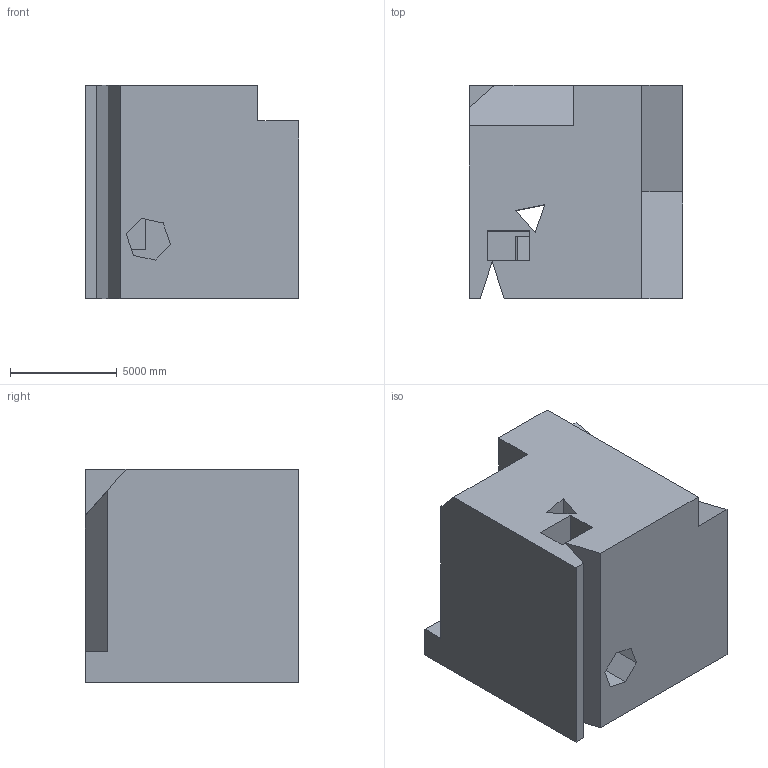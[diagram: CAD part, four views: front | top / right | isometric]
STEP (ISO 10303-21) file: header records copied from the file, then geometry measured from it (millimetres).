
FILE_DESCRIPTION (( 'STEP AP203' ), '1' );
FILE_NAME ('727.STEP', '2022-07-29T12:47:29', ( 'user' ), ( '' ), 'SwSTEP 2.0', 'SolidWorks 2021', '' );
FILE_SCHEMA (( 'CONFIG_CONTROL_DESIGN' ));
Length unit declared in the file: centimetre
Products named in the file (1): 727
Bounding box: 10000 x 10000 x 10000 mm (x, y, z)
Volume: 880549967021.6 mm3; surface area: 748715031.2 mm2
Topology: 1 solids, 1 shells, 40 faces, 114 edges, 76 vertices
Faces by surface type: plane 40
Entity records: 1367 total; most frequent: CARTESIAN_POINT 231, ORIENTED_EDGE 228, DIRECTION 196, VECTOR 114, EDGE_CURVE 114, LINE 114, VERTEX_POINT 76, EDGE_LOOP 46
